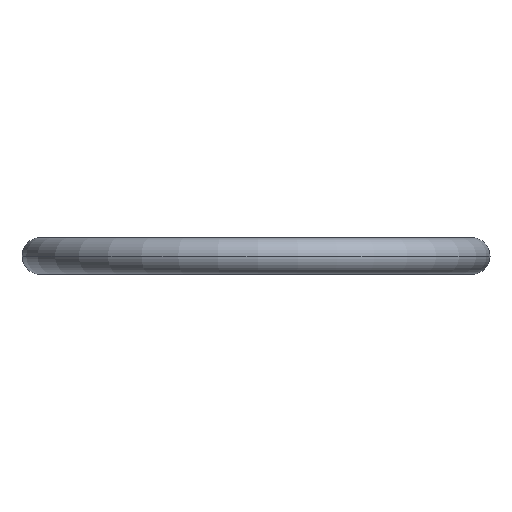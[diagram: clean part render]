
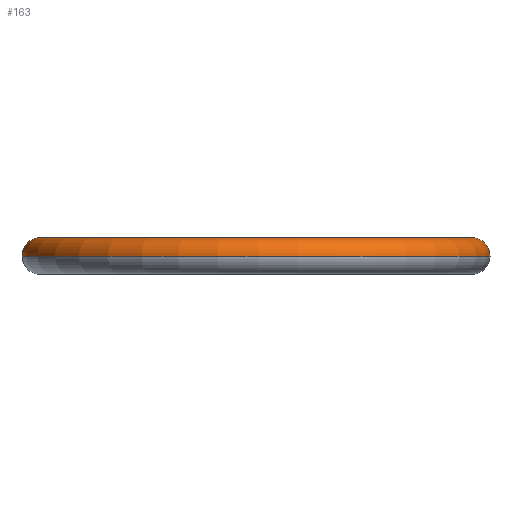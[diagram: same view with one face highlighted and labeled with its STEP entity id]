
A CAD part, front view. The second image highlights one B-rep face of the part: STEP entity #163.
In plain terms, the highlighted toroidal (fillet/blend) face has major radius 17.5 mm and minor radius 1.5 mm.
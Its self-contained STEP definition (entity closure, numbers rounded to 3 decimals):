
#3 = AXIS2_PLACEMENT_3D ( 'NONE', #34, #257, #120 ) ;
#9 = CARTESIAN_POINT ( 'NONE',  ( -9.896, -24.78, 0. ) ) ;
#12 = CARTESIAN_POINT ( 'NONE',  ( 0., -41., 0. ) ) ;
#15 = VERTEX_POINT ( 'NONE', #9 ) ;
#20 = EDGE_CURVE ( 'NONE', #22, #15, #267, .T. ) ;
#22 = VERTEX_POINT ( 'NONE', #270 ) ;
#30 = CARTESIAN_POINT ( 'NONE',  ( 19., -41., 0. ) ) ;
#34 = CARTESIAN_POINT ( 'NONE',  ( 17.5, -41., 0. ) ) ;
#67 = AXIS2_PLACEMENT_3D ( 'NONE', #225, #84, #269 ) ;
#76 = VERTEX_POINT ( 'NONE', #273 ) ;
#84 = DIRECTION ( 'NONE',  ( -0.854, -0.521, 0. ) ) ;
#93 = EDGE_LOOP ( 'NONE', ( #220, #118, #265, #211 ) ) ;
#94 = DIRECTION ( 'NONE',  ( 0., 0., 1. ) ) ;
#100 = CIRCLE ( 'NONE', #245, 19. ) ;
#104 = TOROIDAL_SURFACE ( 'NONE', #238, 17.5, 1.5 ) ;
#105 = FACE_OUTER_BOUND ( 'NONE', #93, .T. ) ;
#116 = DIRECTION ( 'NONE',  ( 0., 0., 1. ) ) ;
#118 = ORIENTED_EDGE ( 'NONE', *, *, #261, .T. ) ;
#120 = DIRECTION ( 'NONE',  ( 0., 0., 1. ) ) ;
#163 = ADVANCED_FACE ( 'NONE', ( #105 ), #104, .T. ) ;
#165 = CIRCLE ( 'NONE', #254, 16. ) ;
#176 = DIRECTION ( 'NONE',  ( 1., 0., 0. ) ) ;
#178 = DIRECTION ( 'NONE',  ( 1., 0., 0. ) ) ;
#192 = EDGE_CURVE ( 'NONE', #22, #76, #165, .T. ) ;
#194 = VERTEX_POINT ( 'NONE', #30 ) ;
#211 = ORIENTED_EDGE ( 'NONE', *, *, #192, .F. ) ;
#214 = DIRECTION ( 'NONE',  ( 1., 0., 0. ) ) ;
#216 = CARTESIAN_POINT ( 'NONE',  ( 0., -41., 0. ) ) ;
#220 = ORIENTED_EDGE ( 'NONE', *, *, #20, .T. ) ;
#225 = CARTESIAN_POINT ( 'NONE',  ( -9.115, -26.061, 0. ) ) ;
#228 = EDGE_CURVE ( 'NONE', #76, #194, #271, .T. ) ;
#230 = CARTESIAN_POINT ( 'NONE',  ( 0., -41., 0. ) ) ;
#238 = AXIS2_PLACEMENT_3D ( 'NONE', #12, #116, #176 ) ;
#245 = AXIS2_PLACEMENT_3D ( 'NONE', #216, #262, #214 ) ;
#254 = AXIS2_PLACEMENT_3D ( 'NONE', #230, #94, #178 ) ;
#257 = DIRECTION ( 'NONE',  ( 0., 1., 0. ) ) ;
#261 = EDGE_CURVE ( 'NONE', #15, #194, #100, .T. ) ;
#262 = DIRECTION ( 'NONE',  ( 0., 0., 1. ) ) ;
#265 = ORIENTED_EDGE ( 'NONE', *, *, #228, .F. ) ;
#267 = CIRCLE ( 'NONE', #67, 1.5 ) ;
#269 = DIRECTION ( 'NONE',  ( 0., 0., 1. ) ) ;
#270 = CARTESIAN_POINT ( 'NONE',  ( -8.333, -27.341, 0. ) ) ;
#271 = CIRCLE ( 'NONE', #3, 1.5 ) ;
#273 = CARTESIAN_POINT ( 'NONE',  ( 16., -41., 0. ) ) ;
